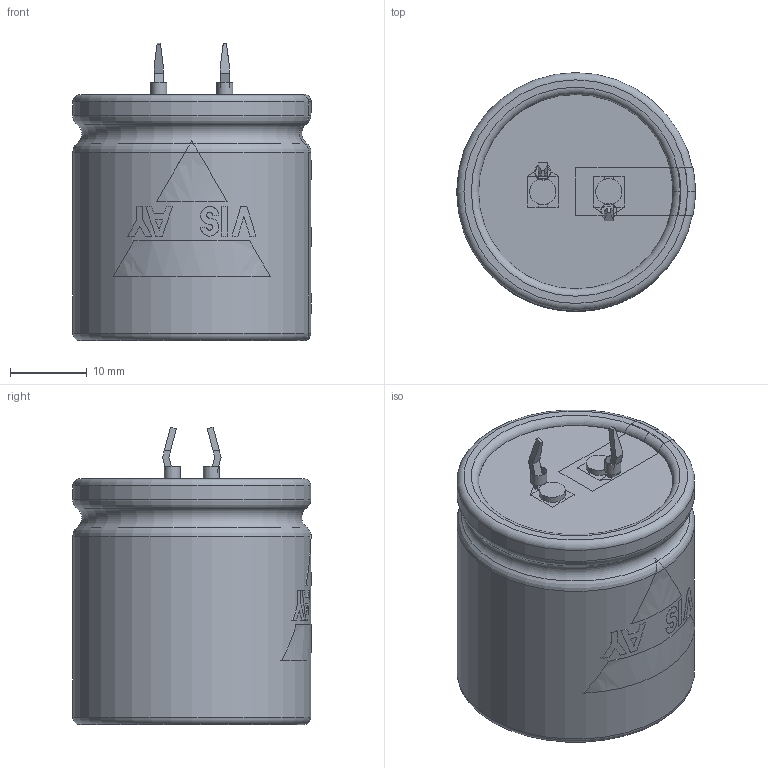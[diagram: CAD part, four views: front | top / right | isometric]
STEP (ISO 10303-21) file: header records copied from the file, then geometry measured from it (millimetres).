
FILE_DESCRIPTION(('FreeCAD Model'),'2;1');
FILE_NAME( 'C:/Users/Gebruiker/Documents/FreeCAD/SnapIn_30x30_2pin_5.8.step', '2020-11-12T20:20:08',('Author'),(''), 'Open CASCADE STEP processor 6.8','FreeCAD','Unknown');
FILE_SCHEMA(('AUTOMOTIVE_DESIGN_CC2 { 1 2 10303 214 -1 1 5 4 }'));
Length unit declared in the file: millimetre
Products named in the file (9): ASSEMBLY; TerminalMin; TerminalPlus; PCBHoles; Disc; BottomInsulation; Can3D; InkMinusBar; InkLogo
Assembly tree (8 placements, depth 2):
  ASSEMBLY
    TerminalMin
    TerminalPlus
    PCBHoles
    Disc
    BottomInsulation
    Can3D
    InkMinusBar
    InkLogo
Bounding box: 31.05 x 31.05 x 38.75 mm (x, y, z)
Volume: 27711.4 mm3; surface area: 11858.4 mm2
Topology: 16 solids, 16 shells, 191 faces, 465 edges, 305 vertices
Faces by surface type: plane 143, cylinder 28, torus 20
Full cylindrical faces by diameter (mm): 2 x2, 2.1 x2, 3.4 x2, 24.8 x2, 25.3 x1, 31 x2
Entity records: 20970 total; most frequent: CARTESIAN_POINT 10536, DIRECTION 1618, ORIENTED_EDGE 930, PCURVE 930, DEFINITIONAL_REPRESENTATION 930, LINE 911, VECTOR 911, EDGE_CURVE 465
